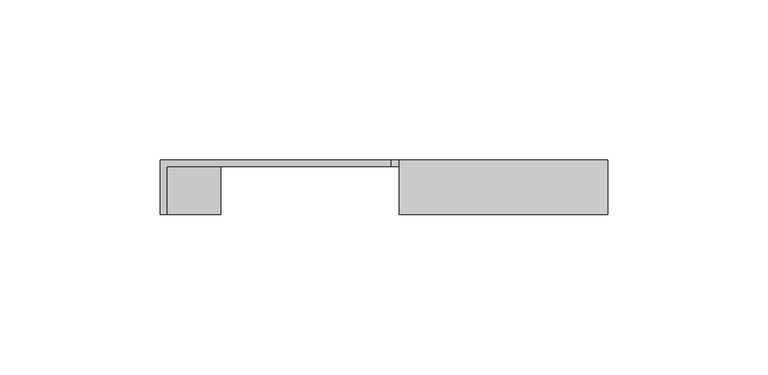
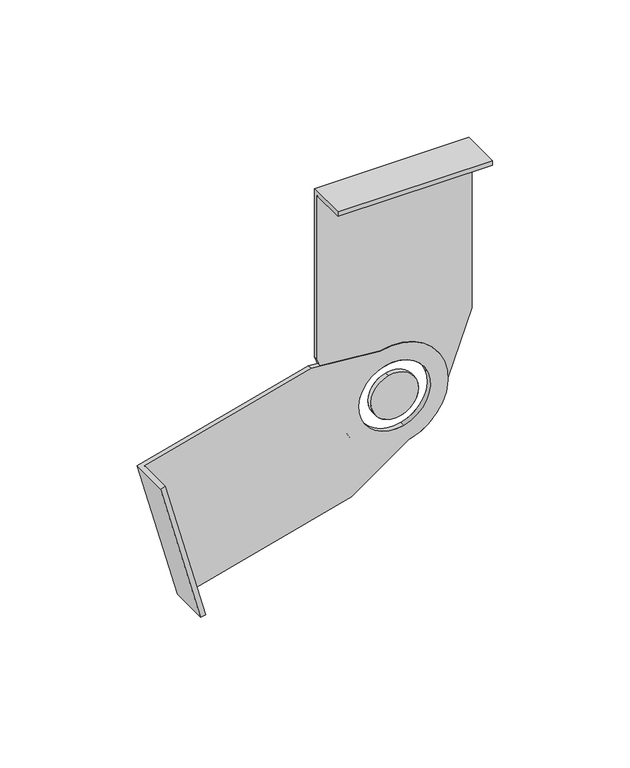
"""IFC4 building model written with IfcOpenShell, lengths in millimetres: cable carrier fitting geometry, BAKS_LD_TEE_Articulated connector attachable_LDD : LDDC_H45."""

from ifc_helpers import new_model, si_unit, frame, origin, place, context, project, spatial, polyline, circle_curve, source, transform, mapped, element, save
from ifc_brep_helpers import plane_surface, cylinder_surface, revolved_surface, advanced_brep


def cable_carrier_fitting_cef1446e(model_context):
    return source(origin(), model_context, "Body", "AdvancedBrep", [
        advanced_brep(
        [(-2.5881905, 2.0, 9.6592583), (2.5881905, 2.0, -9.6592583), (2.5881905, 0.0, -9.6592583), (-2.5881905, 0.0, 9.6592583)],
        [
            (0, 1, circle_curve(frame((0.0, 2.0, 0.0), z_axis=(0.0, 1.0, 0.0), x_axis=(-0.2588190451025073, 0.0, 0.965925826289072)), 10.0)),
            (1, 0, circle_curve(frame((0.0, 2.0, 0.0), z_axis=(0.0, 1.0, 0.0), x_axis=(-0.2588190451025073, 0.0, 0.965925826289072)), 10.0)),
            (2, 3, circle_curve(frame((0.0, 0.0, 0.0), z_axis=(0.0, -1.0, 0.0), x_axis=(-0.2588190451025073, 0.0, 0.965925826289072)), 10.0)),
            (3, 2, circle_curve(frame((0.0, 0.0, 0.0), z_axis=(0.0, -1.0, 0.0), x_axis=(-0.2588190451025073, 0.0, 0.965925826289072)), 10.0)),
            (1, 2),
            (3, 0),
        ],
        [
            plane_surface(frame((-88.1809637, 2.0, -57.2744939), z_axis=(0.0, 1.0, 0.0), x_axis=(0.2588190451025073, 0.0, -0.965925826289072))),
            plane_surface(frame((-88.1809637, 0.0, -57.2744939), z_axis=(0.0, -1.0, 0.0), x_axis=(-0.2588190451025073, 0.0, 0.965925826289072))),
            cylinder_surface(frame((0.0, 0.0, 0.0), z_axis=(0.0, -1.0, 0.0), x_axis=(-0.2588190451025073, 0.0, 0.965925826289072)), 10.0),
        ],
        [
            (0, [[1, 2]]),
            (1, [[3, 4]]),
            (2, [[-2, 5, -4, 6]]),
            (2, [[-3, -5, -1, -6]]),
        ],
    ),
        advanced_brep(
        [(-18.1513413, 2.0, -38.5101131), (-90.1128153, 2.0, -57.792132), (-106.9360532, 2.0, 4.9930468), (-34.9745792, 2.0, 24.2750656), (-5.8234285, 2.0, 21.7333311), (5.8234285, 2.0, -21.7333311), (-3.8822857, 2.0, 14.4888874), (3.8822857, 2.0, -14.4888874), (-105.0042016, 0.0, 5.5106848), (-88.1809637, 0.0, -57.2744939), (-18.1513413, 0.0, -38.5101131), (5.8234285, 0.0, -21.7333311), (-5.8234285, 0.0, 21.7333311), (-34.9745792, 0.0, 24.2750656), (3.8822857, 0.0, -14.4888874), (-3.8822857, 0.0, 14.4888874), (-88.1809637, -15.0, -57.2744939), (-90.1128153, -15.0, -57.792132), (-106.9360532, -15.0, 4.9930468), (-105.0042016, -15.0, 5.5106848)],
        [
            (0, 1),
            (1, 2),
            (2, 3),
            (3, 4),
            (4, 5, circle_curve(frame((0.0, 2.0, 0.0), z_axis=(0.0, 1.0, 0.0), x_axis=(-0.2588190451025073, 0.0, 0.965925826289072)), 22.5)),
            (5, 0),
            (6, 7, circle_curve(frame((0.0, 2.0, 0.0), z_axis=(0.0, -1.0, 0.0), x_axis=(-0.2588190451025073, 0.0, 0.965925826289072)), 15.0)),
            (7, 6, circle_curve(frame((0.0, 2.0, 0.0), z_axis=(0.0, -1.0, 0.0), x_axis=(-0.2588190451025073, 0.0, 0.965925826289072)), 15.0)),
            (8, 9),
            (9, 10),
            (10, 11),
            (11, 12, circle_curve(frame((0.0, 0.0, 0.0), z_axis=(0.0, -1.0, 0.0), x_axis=(-0.2588190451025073, 0.0, 0.965925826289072)), 22.5)),
            (12, 13),
            (13, 8),
            (14, 15, circle_curve(frame((0.0, 0.0, 0.0), z_axis=(0.0, 1.0, 0.0), x_axis=(-0.2588190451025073, 0.0, 0.965925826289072)), 15.0)),
            (15, 14, circle_curve(frame((0.0, 0.0, 0.0), z_axis=(0.0, 1.0, 0.0), x_axis=(-0.2588190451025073, 0.0, 0.965925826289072)), 15.0)),
            (0, 10),
            (9, 16),
            (16, 17),
            (17, 1),
            (5, 11),
            (4, 12),
            (3, 13),
            (2, 18),
            (18, 19),
            (19, 8),
            (7, 14),
            (15, 6),
            (19, 16),
            (17, 18),
        ],
        [
            plane_surface(frame((-88.1809637, 2.0, -57.2744939), z_axis=(0.0, 1.0, 0.0), x_axis=(0.2588190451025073, 0.0, -0.965925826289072))),
            plane_surface(frame((-88.1809637, 0.0, -57.2744939), z_axis=(0.0, -1.0, 0.0), x_axis=(-0.2588190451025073, 0.0, 0.965925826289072))),
            plane_surface(frame((-88.1809637, 2.0, -57.2744939), z_axis=(0.25881904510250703, 0.0, -0.9659258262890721), x_axis=(0.0, -1.0, 0.0))),
            plane_surface(frame((-18.1513413, 2.0, -38.5101131), z_axis=(0.5733348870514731, 0.0, -0.8193211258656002), x_axis=(0.0, -1.0, 0.0))),
            cylinder_surface(frame((0.0, 0.0, 0.0), z_axis=(0.0, 1.0, 0.0), x_axis=(-0.2588190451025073, 0.0, 0.965925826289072)), 22.5),
            plane_surface(frame((-5.8234285, 2.0, 21.7333311), z_axis=(0.0868620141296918, 0.0, 0.9962203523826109), x_axis=(0.0, -1.0, 0.0))),
            plane_surface(frame((-34.9745792, 2.0, 24.2750656), z_axis=(-0.2588190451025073, 0.0, 0.965925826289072), x_axis=(0.0, -1.0, 0.0))),
            revolved_surface(polyline([(-3.8822856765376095, 2.0, 14.48888739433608), (-3.8822856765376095, 0.0, 14.48888739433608)]), (0.0, 0.0, 0.0), (0.0, 1.0, 0.0)),
            plane_surface(frame((-88.1809637, 2.0, -57.2744939), z_axis=(0.965925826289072, 0.0, 0.2588190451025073), x_axis=(0.2588190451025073, 0.0, -0.965925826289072))),
            plane_surface(frame((-90.1128153, 2.0, -57.792132), z_axis=(-0.965925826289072, 0.0, -0.2588190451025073), x_axis=(-0.2588190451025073, 0.0, 0.965925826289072))),
            plane_surface(frame((-88.1809637, -15.0, -57.2744939), z_axis=(0.0, -1.0, 0.0), x_axis=(-0.965925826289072, 0.0, -0.2588190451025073))),
        ],
        [
            (0, [[1, 2, 3, 4, 5, 6], [7, 8]]),
            (1, [[9, 10, 11, 12, 13, 14], [15, 16]]),
            (2, [[17, -10, 18, 19, 20, -1]]),
            (3, [[21, -11, -17, -6]]),
            (4, [[22, -12, -21, -5]]),
            (5, [[23, -13, -22, -4]]),
            (6, [[24, 25, 26, -14, -23, -3]]),
            (7, [[-8, 27, -16, 28]]),
            (7, [[-15, -27, -7, -28]]),
            (8, [[-18, -9, -26, 29]]),
            (9, [[-2, -20, 30, -24]]),
            (10, [[-25, -30, -19, -29]]),
        ],
    ),
        advanced_brep(
        [(10.0, 2.0, 0.0), (-10.0, 2.0, 0.0), (-10.0, 0.0, 0.0), (10.0, 0.0, 0.0)],
        [
            (0, 1, circle_curve(frame((0.0, 2.0, 0.0), z_axis=(0.0, 1.0, 0.0), x_axis=(1.0, 0.0, 0.0)), 10.0)),
            (1, 0, circle_curve(frame((0.0, 2.0, 0.0), z_axis=(0.0, 1.0, 0.0), x_axis=(1.0, 0.0, 0.0)), 10.0)),
            (2, 3, circle_curve(frame((0.0, 0.0, 0.0), z_axis=(0.0, -1.0, 0.0), x_axis=(1.0, 0.0, 0.0)), 10.0)),
            (3, 2, circle_curve(frame((0.0, 0.0, 0.0), z_axis=(0.0, -1.0, 0.0), x_axis=(1.0, 0.0, 0.0)), 10.0)),
            (1, 2),
            (3, 0),
        ],
        [
            plane_surface(frame((-32.5, 2.0, 100.0), z_axis=(0.0, 1.0, 0.0), x_axis=(-1.0, 0.0, 0.0))),
            plane_surface(frame((-32.5, 0.0, 100.0), z_axis=(0.0, -1.0, 0.0), x_axis=(1.0, 0.0, 0.0))),
            cylinder_surface(frame((0.0, 0.0, 0.0), z_axis=(0.0, -1.0, 0.0), x_axis=(1.0, 0.0, 0.0)), 10.0),
        ],
        [
            (0, [[1, 2]]),
            (1, [[3, 4]]),
            (2, [[-2, 5, -4, 6]]),
            (2, [[-3, -5, -1, -6]]),
        ],
    ),
        advanced_brep(
        [(-32.5, 2.0, 27.5), (-32.5, 2.0, 102.0), (32.5, 2.0, 102.0), (32.5, 2.0, 27.5), (22.5, 2.0, 0.0), (-22.5, 2.0, 0.0), (15.0, 2.0, 0.0), (-15.0, 2.0, 0.0), (32.5, 0.0, 100.0), (-32.5, 0.0, 100.0), (-32.5, 0.0, 27.5), (-22.5, 0.0, 0.0), (22.5, 0.0, 0.0), (32.5, 0.0, 27.5), (-15.0, 0.0, 0.0), (15.0, 0.0, 0.0), (-32.5, -15.0, 100.0), (-32.5, -15.0, 102.0), (32.5, -15.0, 102.0), (32.5, -15.0, 100.0)],
        [
            (0, 1),
            (1, 2),
            (2, 3),
            (3, 4),
            (4, 5, circle_curve(frame((0.0, 2.0, 0.0), z_axis=(0.0, 1.0, 0.0), x_axis=(1.0, 0.0, 0.0)), 22.5)),
            (5, 0),
            (6, 7, circle_curve(frame((0.0, 2.0, 0.0), z_axis=(0.0, -1.0, 0.0), x_axis=(1.0, 0.0, 0.0)), 15.0)),
            (7, 6, circle_curve(frame((0.0, 2.0, 0.0), z_axis=(0.0, -1.0, 0.0), x_axis=(1.0, 0.0, 0.0)), 15.0)),
            (8, 9),
            (9, 10),
            (10, 11),
            (11, 12, circle_curve(frame((0.0, 0.0, 0.0), z_axis=(0.0, -1.0, 0.0), x_axis=(1.0, 0.0, 0.0)), 22.5)),
            (12, 13),
            (13, 8),
            (14, 15, circle_curve(frame((0.0, 0.0, 0.0), z_axis=(0.0, 1.0, 0.0), x_axis=(1.0, 0.0, 0.0)), 15.0)),
            (15, 14, circle_curve(frame((0.0, 0.0, 0.0), z_axis=(0.0, 1.0, 0.0), x_axis=(1.0, 0.0, 0.0)), 15.0)),
            (0, 10),
            (9, 16),
            (16, 17),
            (17, 1),
            (5, 11),
            (4, 12),
            (3, 13),
            (2, 18),
            (18, 19),
            (19, 8),
            (7, 14),
            (15, 6),
            (19, 16),
            (17, 18),
        ],
        [
            plane_surface(frame((-32.5, 2.0, 100.0), z_axis=(0.0, 1.0, 0.0), x_axis=(-1.0, 0.0, 0.0))),
            plane_surface(frame((-32.5, 0.0, 100.0), z_axis=(0.0, -1.0, 0.0), x_axis=(1.0, 0.0, 0.0))),
            plane_surface(frame((-32.5, 2.0, 100.0), z_axis=(-1.0, 0.0, 0.0), x_axis=(0.0, -1.0, 0.0))),
            plane_surface(frame((-32.5, 2.0, 27.5), z_axis=(-0.9397934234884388, 0.0, -0.3417430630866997), x_axis=(0.0, -1.0, 0.0))),
            cylinder_surface(frame((0.0, 0.0, 0.0), z_axis=(0.0, 1.0, 0.0), x_axis=(1.0, 0.0, 0.0)), 22.5),
            plane_surface(frame((22.5, 2.0, 0.0), z_axis=(0.9397934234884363, 0.0, -0.34174306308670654), x_axis=(0.0, -1.0, 0.0))),
            plane_surface(frame((32.5, 2.0, 27.5), z_axis=(1.0, 0.0, 0.0), x_axis=(0.0, -1.0, 0.0))),
            revolved_surface(polyline([(15.0, 2.0, 0.0), (15.0, 0.0, 0.0)]), (0.0, 0.0, 0.0), (0.0, 1.0, 0.0)),
            plane_surface(frame((-32.5, 2.0, 100.0), z_axis=(0.0, 0.0, -1.0), x_axis=(-1.0, 0.0, 0.0))),
            plane_surface(frame((-32.5, 2.0, 102.0), z_axis=(0.0, 0.0, 1.0), x_axis=(1.0, 0.0, 0.0))),
            plane_surface(frame((-32.5, -15.0, 100.0), z_axis=(0.0, -1.0, 0.0), x_axis=(0.0, 0.0, 1.0))),
        ],
        [
            (0, [[1, 2, 3, 4, 5, 6], [7, 8]]),
            (1, [[9, 10, 11, 12, 13, 14], [15, 16]]),
            (2, [[17, -10, 18, 19, 20, -1]]),
            (3, [[21, -11, -17, -6]]),
            (4, [[22, -12, -21, -5]]),
            (5, [[23, -13, -22, -4]]),
            (6, [[24, 25, 26, -14, -23, -3]]),
            (7, [[-8, 27, -16, 28]]),
            (7, [[-15, -27, -7, -28]]),
            (8, [[-18, -9, -26, 29]]),
            (9, [[-2, -20, 30, -24]]),
            (10, [[-25, -30, -19, -29]]),
        ],
    ),
    ])


if __name__ == "__main__":
    model = new_model("IFC4")
    model_context = context("Model", 3, world=origin())
    ifc_project = project(units=[si_unit("LENGTHUNIT", "METRE", prefix="MILLI")], contexts=[model_context])
    site = spatial("IfcSite", under=ifc_project)
    building = spatial("IfcBuilding", under=site)
    placement = place(None, origin())
    cable_carrier_fitting_shape = cable_carrier_fitting_cef1446e(model_context)
    element("IfcCableCarrierFitting", 1, ObjectType="BAKS_LD_TEE_Articulated connector attachable_LDD : LDDC_H45", at=placement, inside=building, context=model_context, shape_type="MappedRepresentation", body=[
        mapped(cable_carrier_fitting_shape, transform((0.0, 0.0, 0.0), x_axis=(1.0, 0.0, 0.0), y_axis=(0.0, 1.0, 0.0), z_axis=(0.0, 0.0, 1.0))),
    ])
    save(model, "model.ifc")
